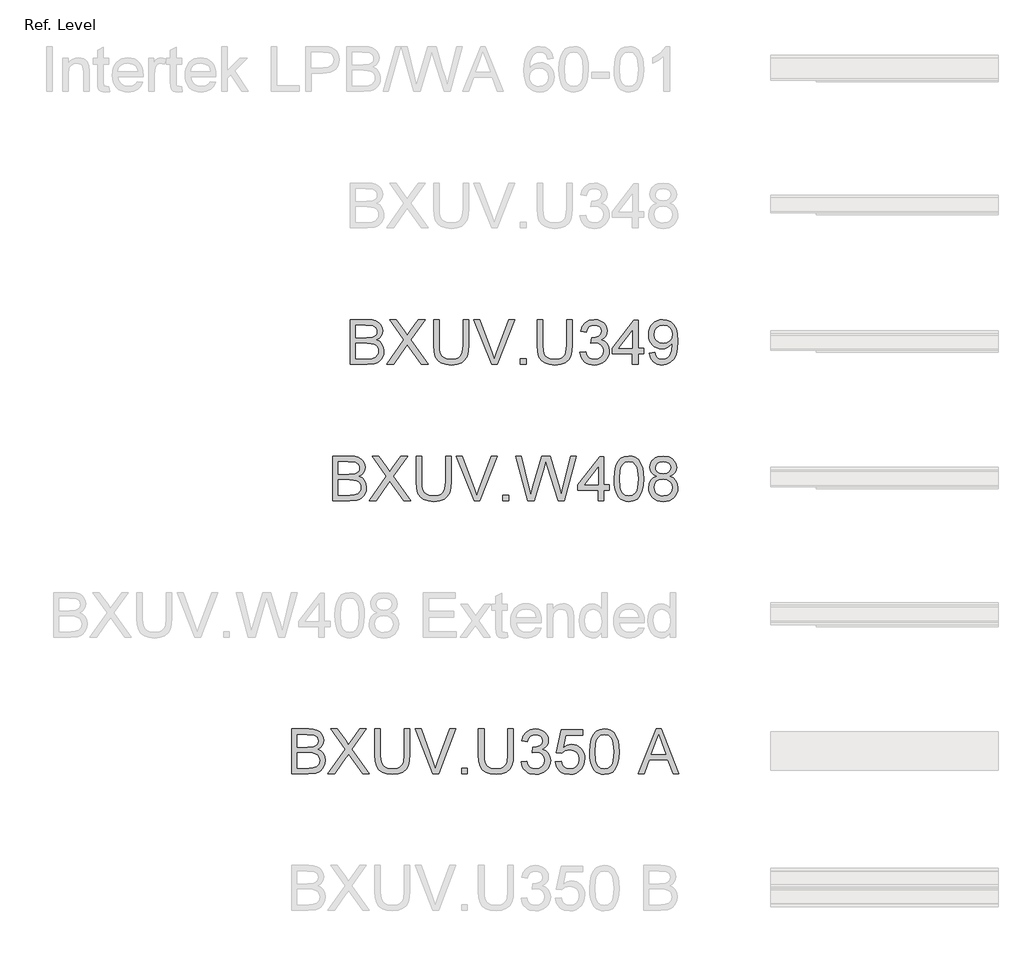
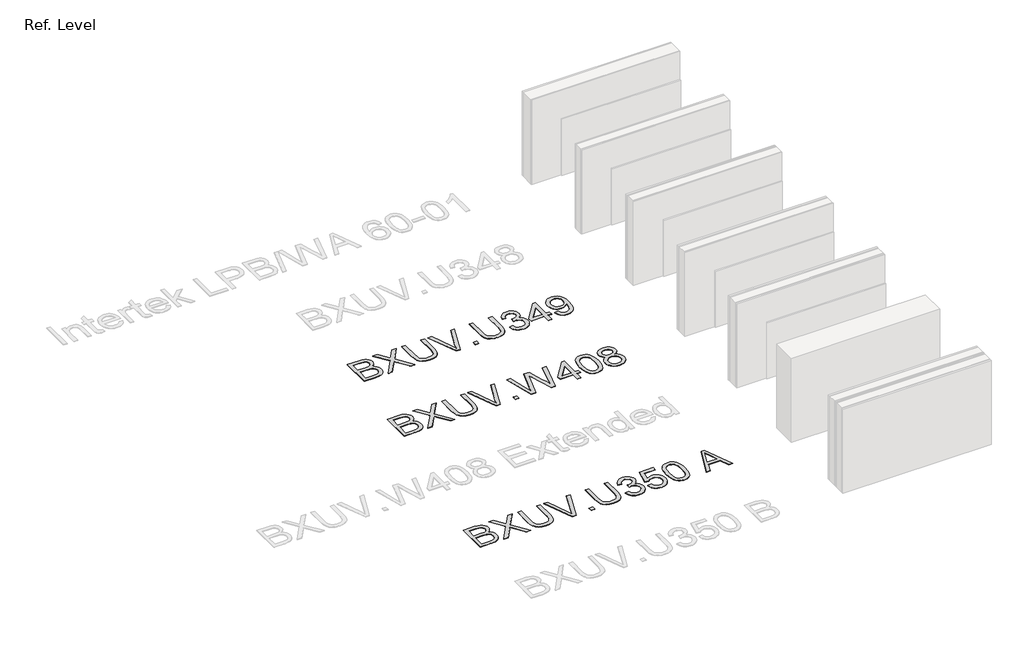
# One storey, part 3 of 5: 3 proxies.
"""IFC4 building model written with IfcOpenShell, lengths in millimetres."""

from ifc_helpers import new_model, si_unit, origin, origin_with_axes, place, context, project, spatial, polyline, outline, extrude, element, save

model = new_model("IFC4")

# Units and contexts
model_context = context("Model", 3, world=origin())
ifc_project = project(units=[si_unit("LENGTHUNIT", "METRE", prefix="MILLI")], contexts=[model_context])

# Site, building, storey
site = spatial("IfcSite", under=ifc_project)
building = spatial("IfcBuilding", under=site)
storey = spatial("IfcBuildingStorey", under=building, Name="Ref. Level", Elevation=0.0)

# Proxies
placement = place(None, origin())
element("IfcBuildingElementProxy", 1, Name="12\" Arial", ObjectType="12\" Arial", at=placement, inside=storey, context=model_context, shape_type="SweptSolid", body=[
    extrude(outline(polyline([(-10546.4516317, -3275.7819205), (-10546.4516317, -2975.6711512), (-10431.931824, -2975.6711512), (-10400.4352134, -2977.8783868), (-10375.8442278, -2984.5000935), (-10356.9957182, -2995.7011272), (-10342.7265355, -3011.6463435), (-10333.7418961, -3030.4032666), (-10330.7470163, -3050.0394205), (-10333.2656461, -3068.1094445), (-10340.8215355, -3085.0987474), (-10353.4696365, -3099.9632426), (-10371.2649009, -3111.6588435), (-10350.0076653, -3122.759132), (-10334.300574, -3139.6476897), (-10324.6015596, -3161.2071608), (-10321.3685548, -3186.3201897), (-10323.5757903, -3207.2477137), (-10330.1974971, -3226.6549012), (-10340.0796846, -3243.1587955), (-10352.0683625, -3255.3764397), (-10366.7496846, -3264.2236993), (-10384.7098048, -3270.6164397), (-10432.8110548, -3275.7819205), (-10546.4516317, -3275.7819205)]), holes=[polyline([(-10508.9377855, -3097.5911512), (-10440.4310548, -3097.5911512), (-10400.4260548, -3094.3673051), (-10386.422473, -3088.8080022), (-10376.3571125, -3080.4827858), (-10370.284925, -3069.5198772), (-10368.2608625, -3056.0474974), (-10370.1475452, -3042.9689397), (-10375.8075932, -3031.5755743), (-10384.9845644, -3022.6825214), (-10397.4220163, -3017.1049012), (-10445.6331702, -3013.1849974), (-10508.9377855, -3013.1849974), (-10508.9377855, -3097.5911512)]), polyline([(-10508.9377855, -3238.2680743), (-10432.0050932, -3238.2680743), (-10404.1627855, -3236.8026897), (-10380.6067278, -3228.6331705), (-10365.0003817, -3211.9644205), (-10360.4118961, -3200.1863916), (-10358.8824009, -3186.6865358), (-10360.6774971, -3171.0069205), (-10366.0627855, -3157.525382), (-10375.468723, -3146.9837714), (-10389.3257663, -3140.1239397), (-10408.9527615, -3136.359733), (-10435.6685548, -3135.1049974), (-10508.9377855, -3135.1049974), (-10508.9377855, -3238.2680743)])]), origin_with_axes(), (0.0, 0.0, 1.0), 3.175),
    extrude(outline(polyline([(-10302.6116317, -3275.7819205), (-10186.9195163, -3112.2449974), (-10283.8547086, -2975.6711512), (-10238.8674009, -2975.6711512), (-10184.281824, -3052.5305743), (-10165.8912471, -3082.4976897), (-10144.3500932, -3052.0176897), (-10090.3506702, -2975.6711512), (-10044.7039394, -2975.6711512), (-10141.6391317, -3112.6846128), (-10025.9470163, -3275.7819205), (-10070.934324, -3275.7819205), (-10148.0135548, -3167.050382), (-10164.0595163, -3144.4834589), (-10181.7174009, -3169.2484589), (-10256.9649009, -3275.7819205), (-10302.6116317, -3275.7819205)])), origin_with_axes(), (0.0, 0.0, 1.0), 3.175),
    extrude(outline(polyline([(-9791.4854778, -2975.6711512), (-9753.9716317, -2975.6711512), (-9753.9716317, -3148.8063435), (-9756.5177375, -3189.3517041), (-9764.1560548, -3220.5735551), (-9778.4252375, -3244.6608147), (-9800.8639394, -3263.8024012), (-9831.5271125, -3276.3039637), (-9870.4697086, -3280.4711512), (-9908.56055, -3276.8443243), (-9939.013074, -3265.9638435), (-9961.8364394, -3248.2052137), (-9977.0398048, -3223.9439397), (-9985.5848288, -3191.4032426), (-9988.4331702, -3148.8063435), (-9988.4331702, -2975.6711512), (-9950.919324, -2975.6711512), (-9950.919324, -3147.4874974), (-9949.0692759, -3181.2005022), (-9943.5191317, -3204.674132), (-9933.4629298, -3220.9307426), (-9918.0947086, -3232.9926897), (-9898.055574, -3240.4661512), (-9873.9866317, -3242.9573051), (-9835.8316798, -3238.0299493), (-9821.5487591, -3231.8707546), (-9810.4622086, -3223.247882), (-9802.1598889, -3211.1218243), (-9796.2296605, -3194.4530743), (-9791.4854778, -3147.4874974), (-9791.4854778, -2975.6711512)])), origin_with_axes(), (0.0, 0.0, 1.0), 3.175),
    extrude(outline(polyline([(-9599.6666317, -3275.7819205), (-9719.0954778, -2975.6711512), (-9678.9439394, -2975.6711512), (-9599.0072086, -3191.8886512), (-9582.8147086, -3240.6126897), (-9566.8420163, -3191.8886512), (-9486.6854778, -2975.6711512), (-9446.5339394, -2975.6711512), (-9560.9072086, -3275.7819205), (-9599.6666317, -3275.7819205)])), origin_with_axes(), (0.0, 0.0, 1.0), 3.175),
    extrude(outline(polyline([(-9406.9685548, -3275.7819205), (-9406.9685548, -3238.2680743), (-9369.4547086, -3238.2680743), (-9369.4547086, -3275.7819205), (-9406.9685548, -3275.7819205)])), origin_with_axes(), (0.0, 0.0, 1.0), 3.175),
    extrude(outline(polyline([(-9097.479324, -2975.6711512), (-9059.9654778, -2975.6711512), (-9059.9654778, -3148.8063435), (-9062.5115836, -3189.3517041), (-9070.1499009, -3220.5735551), (-9084.4190836, -3244.6608147), (-9106.8577855, -3263.8024012), (-9137.5209586, -3276.3039637), (-9176.4635548, -3280.4711512), (-9214.5543961, -3276.8443243), (-9245.0069202, -3265.9638435), (-9267.8302855, -3248.2052137), (-9283.0336509, -3223.9439397), (-9291.578675, -3191.4032426), (-9294.4270163, -3148.8063435), (-9294.4270163, -2975.6711512), (-9256.9131702, -2975.6711512), (-9256.9131702, -3147.4874974), (-9255.0631221, -3181.2005022), (-9249.5129778, -3204.674132), (-9239.4567759, -3220.9307426), (-9224.0885548, -3232.9926897), (-9204.0494202, -3240.4661512), (-9179.9804778, -3242.9573051), (-9141.8255259, -3238.0299493), (-9127.5426052, -3231.8707546), (-9116.4560548, -3223.247882), (-9108.1537351, -3211.1218243), (-9102.2235067, -3194.4530743), (-9097.479324, -3147.4874974), (-9097.479324, -2975.6711512)])), origin_with_axes(), (0.0, 0.0, 1.0), 3.175),
    extrude(outline(polyline([(-9008.3839394, -3196.0649974), (-8970.8700932, -3191.3757666), (-8962.4716077, -3214.9501416), (-8950.1715355, -3230.867882), (-8933.3654057, -3239.9349493), (-8911.4487471, -3242.9573051), (-8885.7312471, -3238.7992762), (-8865.8752855, -3226.3251897), (-8853.1813913, -3207.7148051), (-8848.9500932, -3185.147882), (-8853.1447567, -3163.7257906), (-8865.7287471, -3146.3518243), (-8884.7787471, -3134.8393964), (-8908.3714394, -3131.0019205), (-8934.6750932, -3135.1049974), (-8930.4987471, -3097.5911512), (-8924.4906702, -3098.0307666), (-8902.0153336, -3095.3381224), (-8881.9212471, -3087.2601897), (-8867.7436509, -3073.5954781), (-8863.0177855, -3054.1424974), (-8866.4431221, -3037.9408387), (-8876.7191317, -3024.7981705), (-8892.3987471, -3016.0882906), (-8912.0349009, -3013.1849974), (-8931.7076894, -3016.1157666), (-8947.7902855, -3024.9080743), (-8959.5316798, -3039.5619205), (-8966.1808625, -3060.0773051), (-9003.6947086, -3055.3880743), (-8992.6493721, -3021.7025455), (-8972.9949009, -2996.552882), (-8946.1050932, -2980.8915839), (-8913.3537471, -2975.6711512), (-8889.7702134, -2978.244733), (-8868.1099971, -2985.9654781), (-8849.8476413, -2998.1464878), (-8836.4576894, -3014.1008628), (-8828.2423769, -3032.482281), (-8825.5039394, -3051.9444205), (-8828.1049971, -3070.0785551), (-8835.9081702, -3086.5274974), (-8848.8035548, -3100.5402378), (-8866.6812471, -3111.3657666), (-8843.1984586, -3120.854132), (-8825.7970163, -3137.0099974), (-8815.0264394, -3158.954132), (-8811.4362471, -3185.8073051), (-8813.2313432, -3204.8389878), (-8818.6166317, -3222.3686512), (-8827.5921125, -3238.3962955), (-8840.1577855, -3252.9219205), (-8855.4664754, -3264.9747089), (-8872.6710067, -3273.5838435), (-8891.7713793, -3278.7493243), (-8912.7675932, -3280.4711512), (-8949.0358625, -3274.5912955), (-8964.6422086, -3267.2414757), (-8978.5633625, -3256.9517281), (-8990.2360668, -3244.3265238), (-8999.0970644, -3229.9703339), (-9008.3839394, -3196.0649974)])), origin_with_axes(), (0.0, 0.0, 1.0), 3.175),
    extrude(outline(polyline([(-8656.6916317, -3275.7819205), (-8656.6916317, -3205.4434589), (-8792.679324, -3205.4434589), (-8792.679324, -3167.9296128), (-8647.3131702, -2980.360382), (-8619.1777855, -2980.360382), (-8619.1777855, -3167.9296128), (-8581.6639394, -3167.9296128), (-8581.6639394, -3205.4434589), (-8619.1777855, -3205.4434589), (-8619.1777855, -3275.7819205), (-8656.6916317, -3275.7819205)]), holes=[polyline([(-8656.6916317, -3167.9296128), (-8656.6916317, -3052.0176897), (-8746.5197086, -3167.9296128), (-8656.6916317, -3167.9296128)])]), origin_with_axes(), (0.0, 0.0, 1.0), 3.175),
    extrude(outline(polyline([(-8544.1500932, -3200.7542281), (-8506.6362471, -3196.0649974), (-8500.2251894, -3217.3588676), (-8489.784324, -3231.8570166), (-8475.5700932, -3240.182233), (-8457.8389394, -3242.9573051), (-8441.9303577, -3241.1713676), (-8427.4688432, -3235.8135551), (-8415.4526894, -3227.4700214), (-8406.8801894, -3216.7269205), (-8394.6075932, -3184.1221128), (-8389.1856702, -3140.6001897), (-8389.4054778, -3133.2732666), (-8402.4016077, -3149.1360551), (-8419.4092278, -3161.7017281), (-8439.2010788, -3169.8895647), (-8460.5499009, -3172.6188435), (-8478.3703516, -3170.9519685), (-8494.757473, -3165.9513435), (-8509.7112651, -3157.6169685), (-8523.2317278, -3145.9488435), (-8534.4350512, -3131.556019), (-8542.437425, -3115.0475455), (-8547.2388492, -3096.4234229), (-8548.839324, -3075.6836512), (-8547.1610007, -3054.2524012), (-8542.1260307, -3035.0192281), (-8533.7344141, -3017.984132), (-8521.9861509, -3003.1471128), (-8507.7100992, -2991.1263796), (-8491.7351173, -2982.5401416), (-8474.061205, -2977.3883988), (-8454.6883625, -2975.6711512), (-8426.708675, -2979.5910551), (-8401.2384586, -2991.3507666), (-8379.9354298, -3010.364132), (-8364.4573048, -3036.0449974), (-8355.03305, -3071.5439397), (-8351.8916317, -3120.0115358), (-8355.0238913, -3171.4007426), (-8364.4206702, -3211.1218243), (-8379.9995403, -3240.9698772), (-8401.678074, -3262.7399974), (-8428.5220884, -3276.0383628), (-8459.5974009, -3280.4711512), (-8491.6710067, -3275.2415599), (-8517.2602855, -3259.5527858), (-8535.1562952, -3234.3939637), (-8544.1500932, -3200.7542281)]), holes=[polyline([(-8389.4054778, -3074.8044205), (-8393.4536028, -3049.3799974), (-8405.5979778, -3029.8171128), (-8424.4464875, -3017.3430262), (-8448.6070163, -3013.1849974), (-8473.6650932, -3017.6635791), (-8493.7408625, -3031.0993243), (-8506.929324, -3051.6605022), (-8511.3254778, -3077.515382), (-8507.167449, -3100.6959349), (-8494.6933625, -3119.0956705), (-8475.1121605, -3131.1026656), (-8449.6327855, -3135.1049974), (-8425.6645884, -3131.1026656), (-8406.3673048, -3119.0956705), (-8393.6459346, -3100.0181945), (-8389.4054778, -3074.8044205)])]), origin_with_axes(), (0.0, 0.0, 1.0), 3.175),
])
element("IfcBuildingElementProxy", 2, Name="12\" Arial", ObjectType="12\" Arial", at=placement, inside=storey, context=model_context, shape_type="SweptSolid", body=[
    extrude(outline(polyline([(-10663.6824009, -4190.1819205), (-10663.6824009, -3890.0711512), (-10549.1625932, -3890.0711512), (-10517.6659827, -3892.2783868), (-10493.0749971, -3898.9000935), (-10474.2264875, -3910.1011272), (-10459.9573048, -3926.0463435), (-10450.9726653, -3944.8032666), (-10447.9777855, -3964.4394205), (-10450.4964153, -3982.5094445), (-10458.0523048, -3999.4987474), (-10470.7004057, -4014.3632426), (-10488.4956702, -4026.0588435), (-10467.2384346, -4037.159132), (-10451.5313432, -4054.0476897), (-10441.8323288, -4075.6071608), (-10438.599324, -4100.7201897), (-10440.8065596, -4121.6477137), (-10447.4282663, -4141.0549012), (-10457.3104538, -4157.5587955), (-10469.2991317, -4169.7764397), (-10483.9804538, -4178.6236993), (-10501.940574, -4185.0164397), (-10550.041824, -4190.1819205), (-10663.6824009, -4190.1819205)]), holes=[polyline([(-10626.1685548, -4011.9911512), (-10557.661824, -4011.9911512), (-10517.656824, -4008.7673051), (-10503.6532423, -4003.2080022), (-10493.5878817, -3994.8827858), (-10487.5156942, -3983.9198772), (-10485.4916317, -3970.4474974), (-10487.3783144, -3957.3689397), (-10493.0383625, -3945.9755743), (-10502.2153336, -3937.0825214), (-10514.6527855, -3931.5049012), (-10562.8639394, -3927.5849974), (-10626.1685548, -3927.5849974), (-10626.1685548, -4011.9911512)]), polyline([(-10626.1685548, -4152.6680743), (-10549.2358625, -4152.6680743), (-10521.3935548, -4151.2026897), (-10497.8374971, -4143.0331705), (-10482.2311509, -4126.3644205), (-10477.6426653, -4114.5863916), (-10476.1131702, -4101.0865358), (-10477.9082663, -4085.4069205), (-10483.2935548, -4071.925382), (-10492.6994923, -4061.3837714), (-10506.5565355, -4054.5239397), (-10526.1835307, -4050.759733), (-10552.899324, -4049.5049974), (-10626.1685548, -4049.5049974), (-10626.1685548, -4152.6680743)])]), origin_with_axes(), (0.0, 0.0, 1.0), 3.175),
    extrude(outline(polyline([(-10419.8424009, -4190.1819205), (-10304.1502855, -4026.6449974), (-10401.0854778, -3890.0711512), (-10356.0981702, -3890.0711512), (-10301.5125932, -3966.9305743), (-10283.1220163, -3996.8976897), (-10261.5808625, -3966.4176897), (-10207.5814394, -3890.0711512), (-10161.9347086, -3890.0711512), (-10258.8699009, -4027.0846128), (-10143.1777855, -4190.1819205), (-10188.1650932, -4190.1819205), (-10265.244324, -4081.450382), (-10281.2902855, -4058.8834589), (-10298.9481702, -4083.6484589), (-10374.1956702, -4190.1819205), (-10419.8424009, -4190.1819205)])), origin_with_axes(), (0.0, 0.0, 1.0), 3.175),
    extrude(outline(polyline([(-9908.7162471, -3890.0711512), (-9871.2024009, -3890.0711512), (-9871.2024009, -4063.2063435), (-9873.7485067, -4103.7517041), (-9881.386824, -4134.9735551), (-9895.6560067, -4159.0608147), (-9918.0947086, -4178.2024012), (-9948.7578817, -4190.7039637), (-9987.7004778, -4194.8711512), (-10025.7913192, -4191.2443243), (-10056.2438432, -4180.3638435), (-10079.0672086, -4162.6052137), (-10094.270574, -4138.3439397), (-10102.815598, -4105.8032426), (-10105.6639394, -4063.2063435), (-10105.6639394, -3890.0711512), (-10068.1500932, -3890.0711512), (-10068.1500932, -4061.8874974), (-10066.3000452, -4095.6005022), (-10060.7499009, -4119.074132), (-10050.693699, -4135.3307426), (-10035.3254778, -4147.3926897), (-10015.2863432, -4154.8661512), (-9991.2174009, -4157.3573051), (-9953.062449, -4152.4299493), (-9938.7795283, -4146.2707546), (-9927.6929778, -4137.647882), (-9919.3906581, -4125.5218243), (-9913.4604298, -4108.8530743), (-9908.7162471, -4061.8874974), (-9908.7162471, -3890.0711512)])), origin_with_axes(), (0.0, 0.0, 1.0), 3.175),
    extrude(outline(polyline([(-9716.8974009, -4190.1819205), (-9836.3262471, -3890.0711512), (-9796.1747086, -3890.0711512), (-9716.2379778, -4106.2886512), (-9700.0454778, -4155.0126897), (-9684.0727855, -4106.2886512), (-9603.9162471, -3890.0711512), (-9563.7647086, -3890.0711512), (-9678.1379778, -4190.1819205), (-9716.8974009, -4190.1819205)])), origin_with_axes(), (0.0, 0.0, 1.0), 3.175),
    extrude(outline(polyline([(-9524.199324, -4190.1819205), (-9524.199324, -4152.6680743), (-9486.6854778, -4152.6680743), (-9486.6854778, -4190.1819205), (-9524.199324, -4190.1819205)])), origin_with_axes(), (0.0, 0.0, 1.0), 3.175),
    extrude(outline(polyline([(-9357.9514394, -4190.1819205), (-9439.7931702, -3890.0711512), (-9401.1070163, -3890.0711512), (-9353.6285548, -4087.3119205), (-9338.9747086, -4148.1986512), (-9323.2950932, -4094.3457666), (-9263.8004778, -3890.0711512), (-9208.0425932, -3890.0711512), (-9164.8137471, -4038.1482666), (-9146.294949, -4093.1001897), (-9132.6485548, -4148.1986512), (-9118.434324, -4089.070382), (-9070.5162471, -3890.0711512), (-9031.8300932, -3890.0711512), (-9113.7450932, -4190.1819205), (-9153.8233625, -4190.1819205), (-9225.7737471, -3958.6511512), (-9235.8116317, -3926.3394205), (-9247.0950932, -3965.245382), (-9312.6710548, -4190.1819205), (-9357.9514394, -4190.1819205)])), origin_with_axes(), (0.0, 0.0, 1.0), 3.175),
    extrude(outline(polyline([(-8886.4639394, -4190.1819205), (-8886.4639394, -4119.8434589), (-9022.4516317, -4119.8434589), (-9022.4516317, -4082.3296128), (-8877.0854778, -3894.760382), (-8848.9500932, -3894.760382), (-8848.9500932, -4082.3296128), (-8811.4362471, -4082.3296128), (-8811.4362471, -4119.8434589), (-8848.9500932, -4119.8434589), (-8848.9500932, -4190.1819205), (-8886.4639394, -4190.1819205)]), holes=[polyline([(-8886.4639394, -4082.3296128), (-8886.4639394, -3966.4176897), (-8976.2920163, -4082.3296128), (-8886.4639394, -4082.3296128)])]), origin_with_axes(), (0.0, 0.0, 1.0), 3.175),
    extrude(outline(polyline([(-8778.6116317, -4042.5444205), (-8775.8548769, -3994.507281), (-8767.5846125, -3956.196632), (-8753.8832663, -3927.0263195), (-8734.8332663, -3906.4101897), (-8710.2972327, -3894.1559108), (-8680.1377855, -3890.0711512), (-8657.0213432, -3892.4890358), (-8636.3227855, -3899.7426897), (-8619.0129298, -3911.5481945), (-8606.0625932, -3927.621632), (-8596.2811509, -3947.8256224), (-8588.4779778, -3972.0227858), (-8583.367449, -4002.7500695), (-8581.6639394, -4042.5444205), (-8584.3932182, -4090.3068003), (-8592.5810548, -4128.5258628), (-8606.199973, -4157.7236512), (-8625.2224971, -4178.4222089), (-8649.8134827, -4190.7589156), (-8680.1377855, -4194.8711512), (-8700.7997086, -4193.0852137), (-8719.1170163, -4187.7274012), (-8735.0897086, -4178.7977137), (-8748.7177855, -4166.2961512), (-8761.7963432, -4143.6971729), (-8771.1381702, -4115.5388916), (-8776.7432663, -4081.8213075), (-8778.6116317, -4042.5444205)]), holes=[polyline([(-8741.0977855, -4042.4711512), (-8736.7016317, -4101.480358), (-8731.2064394, -4121.6637414), (-8723.5131702, -4135.6329781), (-8703.8770163, -4151.9262233), (-8680.1377855, -4157.3573051), (-8656.3985548, -4151.907906), (-8636.7624009, -4135.5597089), (-8629.0691317, -4121.5675755), (-8623.5739394, -4101.3887714), (-8619.1777855, -4042.4711512), (-8623.4274009, -3984.7899493), (-8628.7394202, -3964.6729661), (-8636.1762471, -3950.3717281), (-8655.7757663, -3933.2816801), (-8680.5774009, -3927.5849974), (-8704.0601894, -3932.6039397), (-8722.9270163, -3947.6607666), (-8730.8767278, -3963.2304781), (-8736.5550932, -3984.2221128), (-8741.0977855, -4042.4711512)])]), origin_with_axes(), (0.0, 0.0, 1.0), 3.175),
    extrude(outline(polyline([(-8494.1804778, -4024.8865358), (-8514.2654057, -4014.9951897), (-8528.360574, -4001.5869205), (-8536.6857903, -3984.9364878), (-8539.4608625, -3965.3186512), (-8537.9496846, -3950.01912), (-8533.4161509, -3935.9926416), (-8525.8602615, -3923.2392161), (-8515.2820163, -3911.7588435), (-8502.1897206, -3902.2704781), (-8487.0916798, -3895.4930743), (-8450.8783625, -3890.0711512), (-8414.4452375, -3895.6212955), (-8399.1823408, -3902.5589757), (-8385.8885548, -3912.2717281), (-8375.1179778, -3923.9764878), (-8367.4247086, -3936.8901897), (-8362.8087471, -3951.0128339), (-8361.2700932, -3966.3444205), (-8364.0085307, -3985.3303099), (-8372.2238432, -4001.6968243), (-8386.0076173, -4015.0226656), (-8405.4514394, -4024.8865358), (-8382.362473, -4036.7836272), (-8365.5563432, -4054.304132), (-8355.3078096, -4076.6054541), (-8351.8916317, -4102.8449974), (-8353.5859827, -4121.5561272), (-8358.6690355, -4138.7102858), (-8367.1407903, -4154.3074733), (-8379.0012471, -4168.3476897), (-8393.6276173, -4179.9517041), (-8410.3971125, -4188.2402858), (-8429.3097327, -4193.2134349), (-8450.3654778, -4194.8711512), (-8471.421223, -4193.2065659), (-8490.3338432, -4188.2128099), (-8507.1033384, -4179.8898832), (-8521.7297086, -4168.2377858), (-8533.5901653, -4154.099114), (-8542.0619202, -4138.3164637), (-8547.144973, -4120.8898351), (-8548.839324, -4101.8192281), (-8545.2857663, -4074.5630743), (-8534.6250932, -4052.1426897), (-8517.406824, -4035.3274012), (-8494.1804778, -4024.8865358)]), holes=[polyline([(-8511.3254778, -4100.500382), (-8505.0609586, -4128.7456705), (-8496.3877134, -4140.8625695), (-8482.8970163, -4149.8838435), (-8466.7411509, -4155.4889397), (-8450.0724009, -4157.3573051), (-8424.538074, -4153.4282426), (-8405.3781702, -4141.6410551), (-8393.3986509, -4123.7908387), (-8389.4054778, -4101.6726897), (-8393.5268721, -4079.1790358), (-8405.8910548, -4060.9349974), (-8425.490574, -4048.8455743), (-8451.3179778, -4044.8157666), (-8476.4951173, -4048.7906224), (-8495.4626894, -4060.7151897), (-8507.3597807, -4078.6111993), (-8511.3254778, -4100.500382)]), polyline([(-8501.9470163, -3966.4176897), (-8498.622425, -3982.7933628), (-8488.6486509, -3995.8719205), (-8472.3187711, -4004.4444205), (-8449.9258625, -4007.3019205), (-8428.0549971, -4004.4627378), (-8411.9724009, -3995.9451897), (-8402.0810548, -3983.3062474), (-8398.7839394, -3968.102882), (-8402.1909586, -3952.3225214), (-8412.4120163, -3939.2714397), (-8428.7144202, -3930.506608), (-8450.3654778, -3927.5849974), (-8472.1539153, -3930.4424974), (-8488.4288432, -3939.0149974), (-8498.567473, -3951.5806705), (-8501.9470163, -3966.4176897)])]), origin_with_axes(), (0.0, 0.0, 1.0), 3.175),
])
element("IfcBuildingElementProxy", 3, Name="12\" Arial", ObjectType="12\" Arial", at=placement, inside=storey, context=model_context, shape_type="SweptSolid", body=[
    extrude(outline(polyline([(-10940.3470163, -6018.9819205), (-10940.3470163, -5718.8711512), (-10825.8272086, -5718.8711512), (-10794.330598, -5721.0783868), (-10769.7396125, -5727.7000935), (-10750.8911028, -5738.9011272), (-10736.6219202, -5754.8463435), (-10727.6372807, -5773.6032666), (-10724.6424009, -5793.2394205), (-10727.1610307, -5811.3094445), (-10734.7169202, -5828.2987474), (-10747.3650211, -5843.1632426), (-10765.1602855, -5854.8588435), (-10743.90305, -5865.959132), (-10728.1959586, -5882.8476897), (-10718.4969442, -5904.4071608), (-10715.2639394, -5929.5201897), (-10717.471175, -5950.4477137), (-10724.0928817, -5969.8549012), (-10733.9750692, -5986.3587955), (-10745.9637471, -5998.5764397), (-10760.6450692, -6007.4236993), (-10778.6051894, -6013.8164397), (-10826.7064394, -6018.9819205), (-10940.3470163, -6018.9819205)]), holes=[polyline([(-10902.8331702, -5840.7911512), (-10834.3264394, -5840.7911512), (-10794.3214394, -5837.5673051), (-10780.3178577, -5832.0080022), (-10770.2524971, -5823.6827858), (-10764.1803096, -5812.7198772), (-10762.1562471, -5799.2474974), (-10764.0429298, -5786.1689397), (-10769.7029778, -5774.7755743), (-10778.879949, -5765.8825214), (-10791.3174009, -5760.3049012), (-10839.5285548, -5756.3849974), (-10902.8331702, -5756.3849974), (-10902.8331702, -5840.7911512)]), polyline([(-10902.8331702, -5981.4680743), (-10825.9004778, -5981.4680743), (-10798.0581702, -5980.0026897), (-10774.5021125, -5971.8331705), (-10758.8957663, -5955.1644205), (-10754.3072807, -5943.3863916), (-10752.7777855, -5929.8865358), (-10754.5728817, -5914.2069205), (-10759.9581702, -5900.725382), (-10769.3641077, -5890.1837714), (-10783.2211509, -5883.3239397), (-10802.8481461, -5879.559733), (-10829.5639394, -5878.3049974), (-10902.8331702, -5878.3049974), (-10902.8331702, -5981.4680743)])]), origin_with_axes(), (0.0, 0.0, 1.0), 3.175),
    extrude(outline(polyline([(-10696.5070163, -6018.9819205), (-10580.8149009, -5855.4449974), (-10677.7500932, -5718.8711512), (-10632.7627855, -5718.8711512), (-10578.1772086, -5795.7305743), (-10559.7866317, -5825.6976897), (-10538.2454778, -5795.2176897), (-10484.2460548, -5718.8711512), (-10438.599324, -5718.8711512), (-10535.5345163, -5855.8846128), (-10419.8424009, -6018.9819205), (-10464.8297086, -6018.9819205), (-10541.9089394, -5910.250382), (-10557.9549009, -5887.6834589), (-10575.6127855, -5912.4484589), (-10650.8602855, -6018.9819205), (-10696.5070163, -6018.9819205)])), origin_with_axes(), (0.0, 0.0, 1.0), 3.175),
    extrude(outline(polyline([(-10185.3808625, -5718.8711512), (-10147.8670163, -5718.8711512), (-10147.8670163, -5892.0063435), (-10150.4131221, -5932.5517041), (-10158.0514394, -5963.7735551), (-10172.3206221, -5987.8608147), (-10194.759324, -6007.0024012), (-10225.4224971, -6019.5039637), (-10264.3650932, -6023.6711512), (-10302.4559346, -6020.0443243), (-10332.9084586, -6009.1638435), (-10355.731824, -5991.4052137), (-10370.9351894, -5967.1439397), (-10379.4802134, -5934.6032426), (-10382.3285548, -5892.0063435), (-10382.3285548, -5718.8711512), (-10344.8147086, -5718.8711512), (-10344.8147086, -5890.6874974), (-10342.9646605, -5924.4005022), (-10337.4145163, -5947.874132), (-10327.3583144, -5964.1307426), (-10311.9900932, -5976.1926897), (-10291.9509586, -5983.6661512), (-10267.8820163, -5986.1573051), (-10229.7270644, -5981.2299493), (-10215.4441437, -5975.0707546), (-10204.3575932, -5966.447882), (-10196.0552735, -5954.3218243), (-10190.1250452, -5937.6530743), (-10185.3808625, -5890.6874974), (-10185.3808625, -5718.8711512)])), origin_with_axes(), (0.0, 0.0, 1.0), 3.175),
    extrude(outline(polyline([(-9993.5620163, -6018.9819205), (-10112.9908625, -5718.8711512), (-10072.839324, -5718.8711512), (-9992.9025932, -5935.0886512), (-9976.7100932, -5983.8126897), (-9960.7374009, -5935.0886512), (-9880.5808625, -5718.8711512), (-9840.429324, -5718.8711512), (-9954.8025932, -6018.9819205), (-9993.5620163, -6018.9819205)])), origin_with_axes(), (0.0, 0.0, 1.0), 3.175),
    extrude(outline(polyline([(-9800.8639394, -6018.9819205), (-9800.8639394, -5981.4680743), (-9763.3500932, -5981.4680743), (-9763.3500932, -6018.9819205), (-9800.8639394, -6018.9819205)])), origin_with_axes(), (0.0, 0.0, 1.0), 3.175),
    extrude(outline(polyline([(-9491.3747086, -5718.8711512), (-9453.8608625, -5718.8711512), (-9453.8608625, -5892.0063435), (-9456.4069682, -5932.5517041), (-9464.0452855, -5963.7735551), (-9478.3144682, -5987.8608147), (-9500.7531702, -6007.0024012), (-9531.4163432, -6019.5039637), (-9570.3589394, -6023.6711512), (-9608.4497807, -6020.0443243), (-9638.9023048, -6009.1638435), (-9661.7256702, -5991.4052137), (-9676.9290355, -5967.1439397), (-9685.4740596, -5934.6032426), (-9688.3224009, -5892.0063435), (-9688.3224009, -5718.8711512), (-9650.8085548, -5718.8711512), (-9650.8085548, -5890.6874974), (-9648.9585067, -5924.4005022), (-9643.4083625, -5947.874132), (-9633.3521605, -5964.1307426), (-9617.9839394, -5976.1926897), (-9597.9448048, -5983.6661512), (-9573.8758625, -5986.1573051), (-9535.7209105, -5981.2299493), (-9521.4379899, -5975.0707546), (-9510.3514394, -5966.447882), (-9502.0491197, -5954.3218243), (-9496.1188913, -5937.6530743), (-9491.3747086, -5890.6874974), (-9491.3747086, -5718.8711512)])), origin_with_axes(), (0.0, 0.0, 1.0), 3.175),
    extrude(outline(polyline([(-9402.279324, -5939.2649974), (-9364.7654778, -5934.5757666), (-9356.3669923, -5958.1501416), (-9344.0669202, -5974.067882), (-9327.2607903, -5983.1349493), (-9305.3441317, -5986.1573051), (-9279.6266317, -5981.9992762), (-9259.7706702, -5969.5251897), (-9247.0767759, -5950.9148051), (-9242.8454778, -5928.347882), (-9247.0401413, -5906.9257906), (-9259.6241317, -5889.5518243), (-9278.6741317, -5878.0393964), (-9302.266824, -5874.2019205), (-9328.5704778, -5878.3049974), (-9324.3941317, -5840.7911512), (-9318.3860548, -5841.2307666), (-9295.9107182, -5838.5381224), (-9275.8166317, -5830.4601897), (-9261.6390355, -5816.7954781), (-9256.9131702, -5797.3424974), (-9260.3385067, -5781.1408387), (-9270.6145163, -5767.9981705), (-9286.2941317, -5759.2882906), (-9305.9302855, -5756.3849974), (-9325.603074, -5759.3157666), (-9341.6856702, -5768.1080743), (-9353.4270644, -5782.7619205), (-9360.0762471, -5803.2773051), (-9397.5900932, -5798.5880743), (-9386.5447567, -5764.9025455), (-9366.8902855, -5739.752882), (-9340.0004778, -5724.0915839), (-9307.2491317, -5718.8711512), (-9283.665598, -5721.444733), (-9262.0053817, -5729.1654781), (-9243.7430259, -5741.3464878), (-9230.353074, -5757.3008628), (-9222.1377615, -5775.682281), (-9219.399324, -5795.1444205), (-9222.0003817, -5813.2785551), (-9229.8035548, -5829.7274974), (-9242.6989394, -5843.7402378), (-9260.5766317, -5854.5657666), (-9237.0938432, -5864.054132), (-9219.6924009, -5880.2099974), (-9208.921824, -5902.154132), (-9205.3316317, -5929.0073051), (-9207.1267278, -5948.0389878), (-9212.5120163, -5965.5686512), (-9221.4874971, -5981.5962955), (-9234.0531702, -5996.1219205), (-9249.3618601, -6008.1747089), (-9266.5663913, -6016.7838435), (-9285.6667639, -6021.9493243), (-9306.6629778, -6023.6711512), (-9342.9312471, -6017.7912955), (-9358.5375932, -6010.4414757), (-9372.4587471, -6000.1517281), (-9384.1314514, -5987.5265238), (-9392.992449, -5973.1703339), (-9402.279324, -5939.2649974)])), origin_with_axes(), (0.0, 0.0, 1.0), 3.175),
    extrude(outline(polyline([(-9172.5070163, -5939.2649974), (-9134.9931702, -5934.5757666), (-9128.1058625, -5957.0968964), (-9116.0897086, -5973.2252858), (-9098.9996605, -5982.9243003), (-9076.8906702, -5986.1573051), (-9050.0008625, -5981.660406), (-9029.851824, -5968.1697089), (-9017.2678336, -5947.2421849), (-9013.0731702, -5920.4348051), (-9017.0022327, -5895.1935551), (-9028.7894202, -5875.8871128), (-9048.5263192, -5863.6328339), (-9076.3045163, -5859.5480743), (-9094.5027615, -5861.1783147), (-9109.2390355, -5866.0690358), (-9130.3039394, -5882.9942281), (-9167.8177855, -5878.3049974), (-9134.9931702, -5723.560382), (-8989.6270163, -5723.560382), (-8989.6270163, -5761.0742281), (-9104.6597086, -5761.0742281), (-9120.7056702, -5843.7219205), (-9093.907449, -5827.4561512), (-9065.8270163, -5822.0342281), (-9047.5577915, -5823.7148411), (-9030.776848, -5828.7566801), (-9015.4841858, -5837.159745), (-9001.6798048, -5848.9240358), (-8990.2520944, -5863.3305983), (-8982.0894442, -5879.6604781), (-8977.191854, -5897.9136753), (-8975.559324, -5918.0901897), (-8981.4391798, -5955.6040358), (-8988.7889995, -5972.3277378), (-8999.0787471, -5987.6959589), (-9014.6667759, -6003.4351056), (-9032.8558625, -6014.6773531), (-9053.6460067, -6021.4227017), (-9077.0372086, -6023.6711512), (-9113.882473, -6017.8920406), (-9129.4956882, -6010.6681524), (-9143.2359586, -6000.5547089), (-9154.6682483, -5988.0554361), (-9163.3575211, -5973.6740599), (-9172.5070163, -5939.2649974)])), origin_with_axes(), (0.0, 0.0, 1.0), 3.175),
    extrude(outline(polyline([(-8942.7347086, -5871.3444205), (-8939.9779538, -5823.307281), (-8931.7076894, -5784.996632), (-8918.0063432, -5755.8263195), (-8898.9563432, -5735.2101897), (-8874.4203096, -5722.9559108), (-8844.2608625, -5718.8711512), (-8821.1444202, -5721.2890358), (-8800.4458625, -5728.5426897), (-8783.1360067, -5740.3481945), (-8770.1856702, -5756.421632), (-8760.4042278, -5776.6256224), (-8752.6010548, -5800.8227858), (-8747.4905259, -5831.5500695), (-8745.7870163, -5871.3444205), (-8748.5162952, -5919.1068003), (-8756.7041317, -5957.3258628), (-8770.32305, -5986.5236512), (-8789.345574, -6007.2222089), (-8813.9365596, -6019.5589156), (-8844.2608625, -6023.6711512), (-8864.9227855, -6021.8852137), (-8883.2400932, -6016.5274012), (-8899.2127855, -6007.5977137), (-8912.8408625, -5995.0961512), (-8925.9194202, -5972.4971729), (-8935.2612471, -5944.3388916), (-8940.8663432, -5910.6213075), (-8942.7347086, -5871.3444205)]), holes=[polyline([(-8905.2208625, -5871.2711512), (-8900.8247086, -5930.280358), (-8895.3295163, -5950.4637414), (-8887.6362471, -5964.4329781), (-8868.0000932, -5980.7262233), (-8844.2608625, -5986.1573051), (-8820.5216317, -5980.707906), (-8800.8854778, -5964.3597089), (-8793.1922086, -5950.3675755), (-8787.6970163, -5930.1887714), (-8783.3008625, -5871.2711512), (-8787.5504778, -5813.5899493), (-8792.8624971, -5793.4729661), (-8800.299324, -5779.1717281), (-8819.8988432, -5762.0816801), (-8844.7004778, -5756.3849974), (-8868.1832663, -5761.4039397), (-8887.0500932, -5776.4607666), (-8894.9998048, -5792.0304781), (-8900.6781702, -5813.0221128), (-8905.2208625, -5871.2711512)])]), origin_with_axes(), (0.0, 0.0, 1.0), 3.175),
    extrude(outline(polyline([(-8616.6133625, -6018.9819205), (-8496.8181702, -5718.8711512), (-8464.8727855, -5718.8711512), (-8345.0775932, -6018.9819205), (-8384.7162471, -6018.9819205), (-8419.0795163, -5925.1973051), (-8542.6847086, -5925.1973051), (-8576.9747086, -6018.9819205), (-8616.6133625, -6018.9819205)]), holes=[polyline([(-8528.9100932, -5887.6834589), (-8432.7808625, -5887.6834589), (-8459.8172086, -5813.9013435), (-8480.8454778, -5756.3849974), (-8499.5291317, -5807.4536512), (-8528.9100932, -5887.6834589)])]), origin_with_axes(), (0.0, 0.0, 1.0), 3.175),
])

save(model, "model.ifc")
